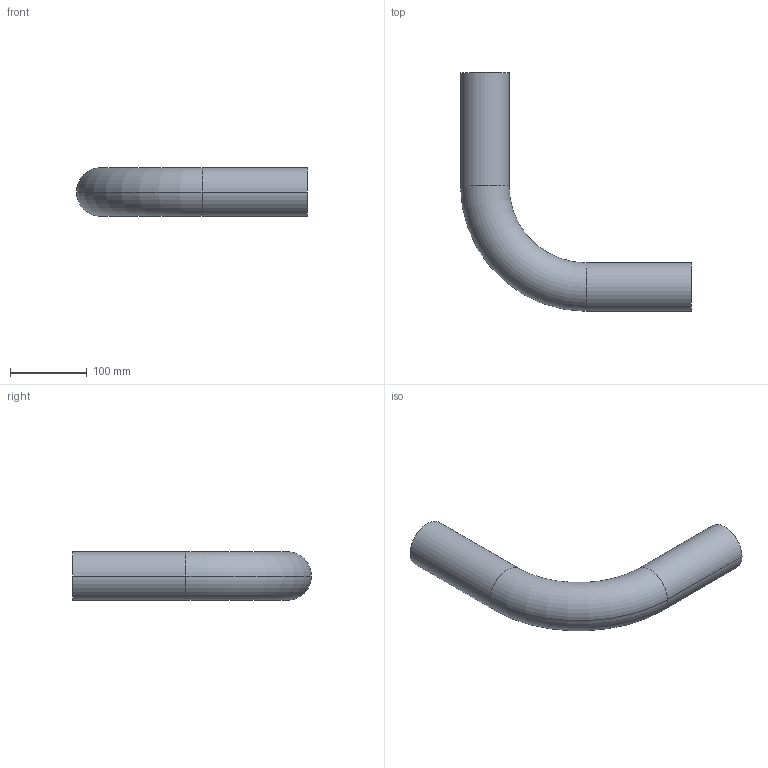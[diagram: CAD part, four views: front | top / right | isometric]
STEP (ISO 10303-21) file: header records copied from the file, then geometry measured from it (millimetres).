
FILE_DESCRIPTION (( 'STEP AP203' ), '1' );
FILE_NAME ('KP_3-63FC.step', '2011-08-08T11:37:43', ( '' ), ( '' ), 'SwSTEP 2.0', 'SolidWorks 2011', '' );
FILE_SCHEMA (( 'CONFIG_CONTROL_DESIGN' ));
Length unit declared in the file: millimetre
Products named in the file (1): KP_3-63FC
Bounding box: 300 x 310 x 63 mm (x, y, z)
Volume: 527069.5 mm3; surface area: 177838.7 mm2
Topology: 1 solids, 1 shells, 14 faces, 28 edges, 16 vertices
Faces by surface type: cylinder 8, torus 4, plane 2
Entity records: 449 total; most frequent: DIRECTION 78, CARTESIAN_POINT 59, ORIENTED_EDGE 56, AXIS2_PLACEMENT_3D 35, EDGE_CURVE 28, CIRCLE 20, VERTEX_POINT 16, EDGE_LOOP 16
